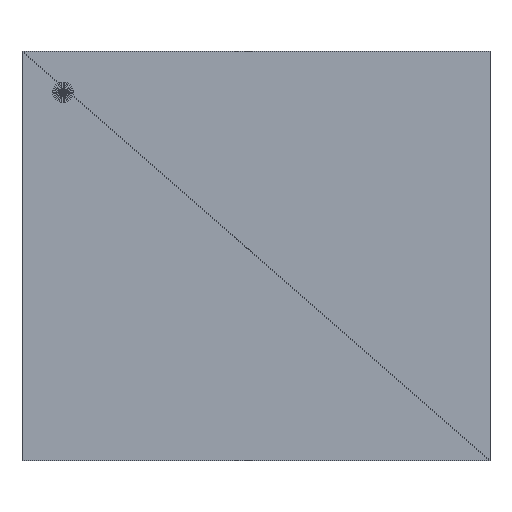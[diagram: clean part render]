
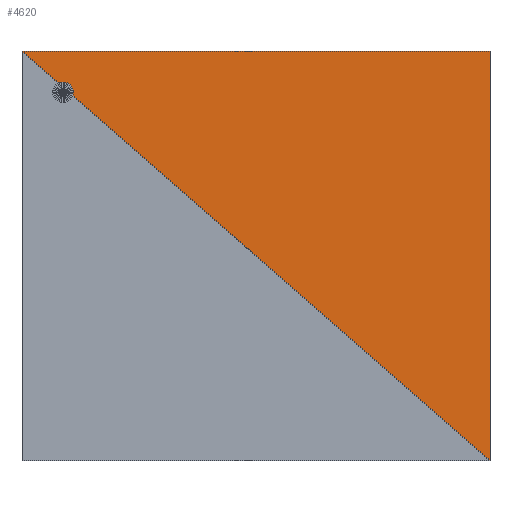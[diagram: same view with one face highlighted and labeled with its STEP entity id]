
A CAD part, top view. The second image highlights one B-rep face of the part: STEP entity #4620.
In plain terms, the highlighted planar face has unit normal (0, 0, 1).
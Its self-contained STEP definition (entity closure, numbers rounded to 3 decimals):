
#4620=ADVANCED_FACE('',(#4621),#4647,.F.);
#4621=FACE_OUTER_BOUND('',#4622,.T.);
#4622=EDGE_LOOP('',(#4623,#4625,#4627));
#4623=ORIENTED_EDGE('',*,*,#4624,.T.);
#4624=EDGE_CURVE('',#4629,#4631,#4633,.T.);
#4625=ORIENTED_EDGE('',*,*,#4626,.T.);
#4626=EDGE_CURVE('',#4631,#4637,#4639,.T.);
#4627=ORIENTED_EDGE('',*,*,#4628,.T.);
#4628=EDGE_CURVE('',#4637,#4629,#4643,.T.);
#4629=VERTEX_POINT('',#4630);
#4630=CARTESIAN_POINT('',(1.118,-0.978,0.508));
#4631=VERTEX_POINT('',#4632);
#4632=CARTESIAN_POINT('',(-1.118,0.978,0.508));
#4633=LINE('',#4634,#4635);
#4634=CARTESIAN_POINT('',(1.118,-0.978,0.508));
#4635=VECTOR('',#4636,1.0);
#4636=DIRECTION('',(0.753,-0.659,0.0));
#4637=VERTEX_POINT('',#4638);
#4638=CARTESIAN_POINT('',(1.118,0.978,0.508));
#4639=LINE('',#4640,#4641);
#4640=CARTESIAN_POINT('',(-1.118,0.978,0.508));
#4641=VECTOR('',#4642,1.0);
#4642=DIRECTION('',(-1.0,0.0,0.0));
#4643=LINE('',#4644,#4645);
#4644=CARTESIAN_POINT('',(1.118,0.978,0.508));
#4645=VECTOR('',#4646,1.0);
#4646=DIRECTION('',(0.0,1.0,0.0));
#4647=PLANE('',#4648);
#4648=AXIS2_PLACEMENT_3D('',#4649,#4650,#4651);
#4649=CARTESIAN_POINT('',(-1.118,0.978,0.508));
#4650=DIRECTION('',(0.0,0.0,-1.0));
#4651=DIRECTION('',(0.0,-1.0,0.0));
